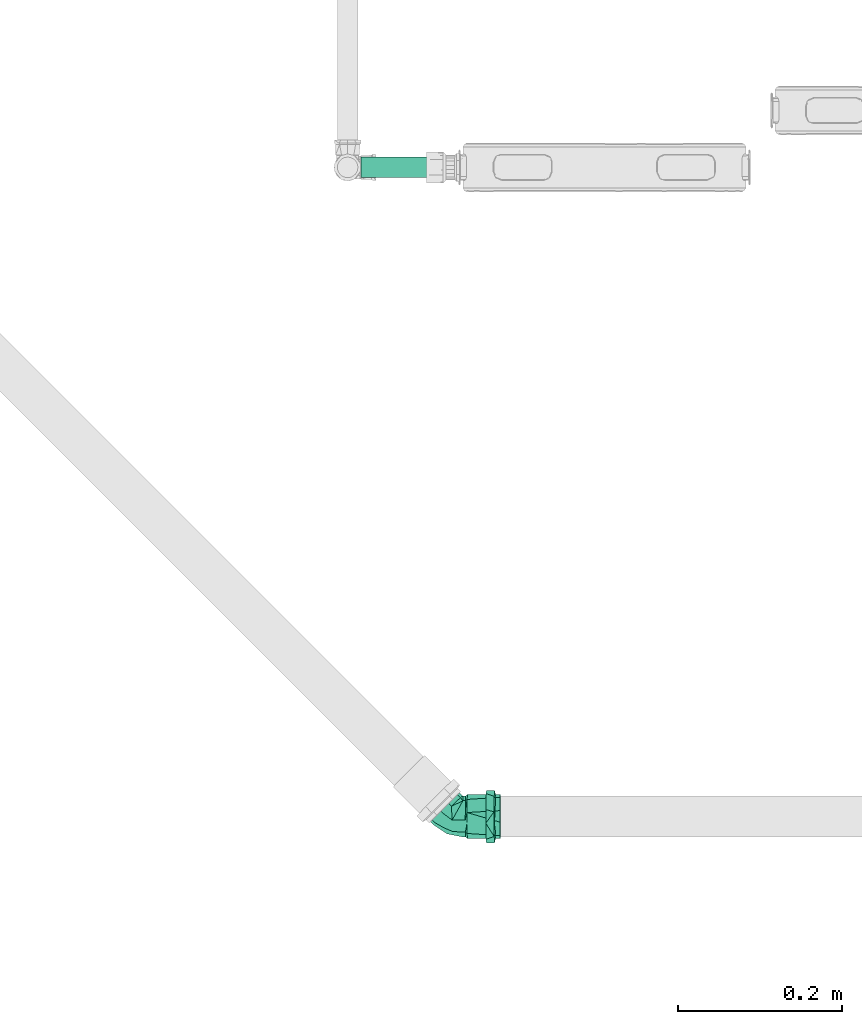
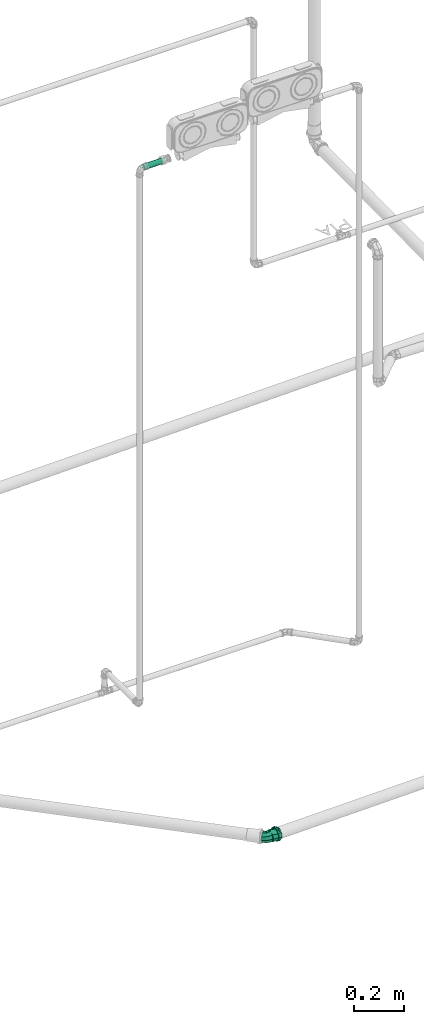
# One storey, part 109 of 589: 1 flow fitting, 1 flow segment.
"""IFC2X3 building model written with IfcOpenShell, lengths in millimetres."""

from ifc_helpers import new_model, entity, si_unit, converted_unit, derived_unit, direction, frame, frame_2d, origin, place, context, subcontext, project, spatial, circle, extrude, faceted_brep, source, transform, mapped, material, type_object, type_shapes, element, save


model = new_model("IFC2X3")

# Units and contexts
model_context = context("Model", 3, precision=0.01, world=origin(), true_north=direction((6.123031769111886e-17, 1.0)))
body_context = subcontext(model_context, "Body", "Model", "MODEL_VIEW")
ifc_project = project(units=[si_unit("LENGTHUNIT", "METRE", prefix="MILLI"), si_unit("AREAUNIT", "SQUARE_METRE"), si_unit("VOLUMEUNIT", "CUBIC_METRE"), converted_unit("PLANEANGLEUNIT", "DEGREE", entity("IfcRatioMeasure", 0.017453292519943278), si_unit("PLANEANGLEUNIT", "RADIAN"), dimensions=[0, 0, 0, 0, 0, 0, 0]), si_unit("MASSUNIT", "GRAM", prefix="KILO"), derived_unit("MASSDENSITYUNIT", [(si_unit("MASSUNIT", "GRAM", prefix="KILO"), 1), (si_unit("LENGTHUNIT", "METRE"), -3)]), derived_unit("IONCONCENTRATIONUNIT", [(si_unit("MASSUNIT", "GRAM", prefix="KILO"), 1), (si_unit("LENGTHUNIT", "METRE"), -3)]), derived_unit("MOMENTOFINERTIAUNIT", [(si_unit("LENGTHUNIT", "METRE"), 4)]), si_unit("TIMEUNIT", "SECOND"), si_unit("FREQUENCYUNIT", "HERTZ"), si_unit("THERMODYNAMICTEMPERATUREUNIT", "DEGREE_CELSIUS"), derived_unit("THERMALTRANSMITTANCEUNIT", [(si_unit("MASSUNIT", "GRAM", prefix="KILO"), 1), (si_unit("THERMODYNAMICTEMPERATUREUNIT", "KELVIN"), -1), (si_unit("TIMEUNIT", "SECOND"), -3)]), derived_unit("THERMALCONDUCTANCEUNIT", [(si_unit("MASSUNIT", "GRAM", prefix="KILO"), 1), (si_unit("THERMODYNAMICTEMPERATUREUNIT", "KELVIN"), -1), (si_unit("TIMEUNIT", "SECOND"), -3), (si_unit("LENGTHUNIT", "METRE"), 1)]), derived_unit("VOLUMETRICFLOWRATEUNIT", [(si_unit("LENGTHUNIT", "METRE"), 3), (si_unit("TIMEUNIT", "SECOND"), -1)]), derived_unit("MASSFLOWRATEUNIT", [(si_unit("MASSUNIT", "GRAM", prefix="KILO"), 1), (si_unit("TIMEUNIT", "SECOND"), -1)]), derived_unit("ROTATIONALFREQUENCYUNIT", [(si_unit("TIMEUNIT", "SECOND"), -1)]), si_unit("ELECTRICCURRENTUNIT", "AMPERE"), si_unit("ELECTRICVOLTAGEUNIT", "VOLT"), si_unit("POWERUNIT", "WATT"), si_unit("FORCEUNIT", "NEWTON", prefix="KILO"), si_unit("ILLUMINANCEUNIT", "LUX"), si_unit("LUMINOUSFLUXUNIT", "LUMEN"), si_unit("LUMINOUSINTENSITYUNIT", "CANDELA"), derived_unit("USERDEFINED", [(si_unit("MASSUNIT", "GRAM", prefix="KILO"), -1), (si_unit("LENGTHUNIT", "METRE"), -2), (si_unit("TIMEUNIT", "SECOND"), 3), (si_unit("LUMINOUSFLUXUNIT", "LUMEN"), 1)]), derived_unit("USERDEFINED", [(si_unit("MASSUNIT", "GRAM", prefix="KILO"), 1), (si_unit("TIMEUNIT", "SECOND"), -3), (si_unit("LENGTHUNIT", "METRE"), 3), (si_unit("ELECTRICCURRENTUNIT", "AMPERE"), -2)]), derived_unit("SOUNDPOWERUNIT", [(si_unit("MASSUNIT", "GRAM", prefix="KILO"), 1), (si_unit("TIMEUNIT", "SECOND"), -3), (si_unit("LENGTHUNIT", "METRE"), 2)]), derived_unit("SOUNDPRESSUREUNIT", [(si_unit("MASSUNIT", "GRAM", prefix="KILO"), 1), (si_unit("LENGTHUNIT", "METRE"), -1), (si_unit("TIMEUNIT", "SECOND"), -2)]), derived_unit("LINEARVELOCITYUNIT", [(si_unit("LENGTHUNIT", "METRE"), 1), (si_unit("TIMEUNIT", "SECOND"), -1)]), si_unit("PRESSUREUNIT", "PASCAL"), derived_unit("USERDEFINED", [(si_unit("MASSUNIT", "GRAM", prefix="KILO"), 1), (si_unit("LENGTHUNIT", "METRE"), -2), (si_unit("TIMEUNIT", "SECOND"), -2)]), derived_unit("LINEARFORCEUNIT", [(si_unit("MASSUNIT", "GRAM", prefix="KILO"), 1), (si_unit("TIMEUNIT", "SECOND"), -2)]), derived_unit("PLANARFORCEUNIT", [(si_unit("MASSUNIT", "GRAM", prefix="KILO"), 1), (si_unit("LENGTHUNIT", "METRE"), -1), (si_unit("TIMEUNIT", "SECOND"), -2)]), derived_unit("SPECIFICHEATCAPACITYUNIT", [(si_unit("THERMODYNAMICTEMPERATUREUNIT", "KELVIN"), -1), (si_unit("LENGTHUNIT", "METRE"), 2), (si_unit("TIMEUNIT", "SECOND"), -2)]), derived_unit("HEATINGVALUEUNIT", [(si_unit("LENGTHUNIT", "METRE"), 2), (si_unit("TIMEUNIT", "SECOND"), -2)]), derived_unit("VAPORPERMEABILITYUNIT", [(si_unit("LENGTHUNIT", "METRE"), -1), (si_unit("TIMEUNIT", "SECOND"), 1)]), derived_unit("DYNAMICVISCOSITYUNIT", [(si_unit("MASSUNIT", "GRAM", prefix="KILO"), 1), (si_unit("TIMEUNIT", "SECOND"), -1), (si_unit("LENGTHUNIT", "METRE"), -1)]), derived_unit("THERMALEXPANSIONCOEFFICIENTUNIT", [(si_unit("THERMODYNAMICTEMPERATUREUNIT", "KELVIN"), -1)]), derived_unit("MODULUSOFELASTICITYUNIT", [(si_unit("MASSUNIT", "GRAM", prefix="KILO"), 1), (si_unit("LENGTHUNIT", "METRE"), -1), (si_unit("TIMEUNIT", "SECOND"), -2)]), derived_unit("ISOTHERMALMOISTURECAPACITYUNIT", [(si_unit("LENGTHUNIT", "METRE"), 3), (si_unit("MASSUNIT", "GRAM", prefix="KILO"), -1)]), derived_unit("MOISTUREDIFFUSIVITYUNIT", [(si_unit("TIMEUNIT", "SECOND"), -1), (si_unit("LENGTHUNIT", "METRE"), 2)])], contexts=[model_context])

# Site, building, storey
site_placement = place(None, origin())
site = spatial("IfcSite", under=ifc_project, at=site_placement, Name="Default", CompositionType="ELEMENT")
building_placement = place(site_placement, origin())
building = spatial("IfcBuilding", under=site, at=building_placement, CompositionType="ELEMENT")
storey_placement = place(building_placement, frame((0.0, 0.0, 100.0)))
storey = spatial("IfcBuildingStorey", under=building, at=storey_placement, Name="TÉRREO", CompositionType="ELEMENT", Elevation=100.0)

# Flow segment
pipe_segment_type = type_object("IfcPipeSegmentType", Name="Tipos de tubos:PVC Marrom Soldável", PredefinedType="NOTDEFINED")
flow_segment_placement = place(storey_placement, origin())
element("IfcFlowSegment", 1, at=flow_segment_placement, inside=storey, type_object=pipe_segment_type, Name="Tipos de tubos:PVC Marrom Soldável", ObjectType="Tipos de tubos:PVC Marrom Soldável", context=body_context, shape_type="SweptSolid", body=[
    extrude(circle(Radius=12.5, at=frame_2d((0.0, -5.414064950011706e-13), x_axis=(1.0, 0.0))), frame((-271.8779033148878, 1487.6480909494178, 2576.4399682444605), z_axis=(0.9999500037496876, 0.0, 0.009999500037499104), x_axis=(0.0, 1.0, 0.0)), (0.0, 0.0, 1.0), 95.98397679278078),
])

# Flow fitting
ifc_material = material(Name="PVC Série Normal")
pipe_fitting_type = type_object("IfcPipeFittingType", Name="PVC Esgoto_Joelho 45_90_Rodrigo MEP:a. Série Normal", PredefinedType="NOTDEFINED", material=ifc_material)
shared_shape = source(origin(), body_context, "Body", "Brep", [
    faceted_brep([(-15.967030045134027, -21.650635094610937, -12.500000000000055), (-15.967030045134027, -25.0, 0.0), (-15.967030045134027, -21.650635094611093, 12.499999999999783), (-15.967030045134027, -6.470476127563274, 24.148145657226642), (-15.967030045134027, 6.470476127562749, 24.14814565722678), (-15.967030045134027, 21.650635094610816, 12.500000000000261), (-15.967030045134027, 25.0, 0.0), (-15.967030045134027, 21.650635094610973, -12.499999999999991), (-15.967030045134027, 6.4704761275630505, -24.1481456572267), (-15.967030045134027, -6.4704761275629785, -24.14814565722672), (-10.767030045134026, 6.4704761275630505, -24.1481456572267), (-10.767030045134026, 21.650635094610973, -12.499999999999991), (-10.767030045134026, 25.0, 0.0), (-10.767030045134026, 21.650635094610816, 12.500000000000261), (-10.767030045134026, 6.470476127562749, 24.14814565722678), (-10.767030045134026, -6.470476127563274, 24.148145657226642), (-10.767030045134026, -21.650635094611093, 12.499999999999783), (-10.767030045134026, -25.0, 0.0), (-10.767030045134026, -21.650635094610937, -12.500000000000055), (-10.767030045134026, -6.4704761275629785, -24.14814565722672)], [[[0, 1, 2, 3, 4, 5, 6, 7, 8, 9]], [[10, 11, 12, 13, 14, 15, 16, 17, 18, 19]], [[1, 17, 16, 2]], [[2, 16, 15, 3]], [[15, 14, 4, 3]], [[4, 14, 13, 5]], [[5, 13, 12, 6]], [[6, 12, 11, 7]], [[7, 11, 10, 8]], [[10, 19, 9, 8]], [[9, 19, 18, 0]], [[0, 18, 17, 1]]]),
    faceted_brep([(32.49893906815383, 22.607125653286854, -26.079997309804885), (22.61789019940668, 32.49144831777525, -26.079997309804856), (21.702978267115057, 33.406663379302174, -30.90962644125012), (33.41385100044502, 21.691910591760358, -30.90962644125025), (44.08973158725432, 11.012492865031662, -13.500000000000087), (7.965742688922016, 47.14845038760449, -16.0), (11.027097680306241, 44.08608110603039, -13.499999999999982), (8.46969404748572, 46.64433205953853, 0.0), (4.934745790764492, 50.18045151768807, 0.0), (11.027097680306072, 44.08608110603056, 13.499999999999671), (7.965742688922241, 47.14845038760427, 16.0), (22.617890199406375, 32.49144831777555, 26.079997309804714), (21.702978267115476, 33.406663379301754, 30.909626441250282), (32.49893906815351, 22.607125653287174, 26.07999730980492), (33.41385100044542, 21.69191059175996, 30.909626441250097), (44.08973158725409, 11.01249286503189, 13.500000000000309), (47.15108657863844, 7.950123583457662, 16.0), (50.18208347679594, 4.9181224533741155, 0.0), (46.64713522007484, 8.454241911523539, 0.0), (47.15108657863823, 7.950123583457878, -16.0), (57.254322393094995, 11.988018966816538, 0.0), (51.96057869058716, 17.283516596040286, 20.570569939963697), (30.698989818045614, 38.55214987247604, 31.51307341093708), (17.297080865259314, 51.95849915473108, 20.56442050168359), (12.006984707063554, 57.25034803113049, 0.0), (17.297080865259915, 51.95849915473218, -20.564420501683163), (38.55672846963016, 30.691807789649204, -31.51446740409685), (51.96057869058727, 17.28351659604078, -20.57056993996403), (15.541932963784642, 53.714228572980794, 0.0), (16.461324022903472, 54.633315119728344, 0.0), (16.820634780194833, 52.43510309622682, 6.749999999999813), (18.099336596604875, 51.15597761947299, 13.49999999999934), (20.99703472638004, 48.257319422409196, 16.64499932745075), (23.894732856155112, 45.35866122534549, 19.789998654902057), (26.792430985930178, 42.4600030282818, 22.93499798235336), (29.690129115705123, 39.561344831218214, 26.07999730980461), (34.630653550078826, 34.619183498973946, 26.079997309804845), (39.571177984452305, 29.677022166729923, 26.079997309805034), (42.46887611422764, 26.778363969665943, 22.93499798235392), (45.36657424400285, 23.87970577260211, 19.789998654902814), (48.264272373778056, 20.981047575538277, 16.644999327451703), (51.16197050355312, 18.082389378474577, 13.500000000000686), (52.440672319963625, 16.80326390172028, 6.7500000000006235), (54.6387651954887, 16.44322497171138, 0.0), (53.719374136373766, 15.524138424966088, 0.0), (52.44067231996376, 16.80326390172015, -6.750000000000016), (51.161970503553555, 18.082389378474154, -13.499999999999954), (48.26427237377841, 20.98104757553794, -16.644999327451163), (45.36657424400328, 23.879705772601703, -19.78999865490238), (42.468876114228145, 26.778363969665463, -22.9349979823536), (39.571177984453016, 29.677022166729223, -26.079997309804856), (34.6306535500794, 34.6191834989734, -26.079997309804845), (29.690129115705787, 39.56134483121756, -26.079997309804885), (26.792430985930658, 42.46000302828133, -22.93499798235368), (23.894732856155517, 45.358661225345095, -19.78999865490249), (20.99703472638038, 48.25731942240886, -16.64499932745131), (18.09933659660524, 51.15597761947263, -13.50000000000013), (16.82063478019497, 52.43510309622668, -6.75000000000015), (52.40700587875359, 18.675723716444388, 8.67561489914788), (50.175246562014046, 20.908222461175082, 17.351229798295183), (45.690789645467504, 25.394165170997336, 19.661005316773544), (41.20633272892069, 29.88010788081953, 21.97078083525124), (36.721875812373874, 34.36605059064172, 24.280556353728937), (32.23741889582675, 38.851993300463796, 26.590331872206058), (20.927920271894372, 50.16523899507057, 17.356418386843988), (18.694622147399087, 52.39927705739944, 8.678209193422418), (26.582669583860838, 44.50861614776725, 21.973375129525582), (18.694622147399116, 52.39927705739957, -8.678209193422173), (20.9279202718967, 50.165238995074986, -17.35641838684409), (25.412786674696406, 45.67888666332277, -19.664602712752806), (29.897653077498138, 41.19253433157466, -21.97278703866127), (34.38251948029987, 36.70618199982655, -24.28097136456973), (38.86738588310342, 32.21982966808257, -26.58915569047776), (50.1752465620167, 20.908222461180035, -17.351229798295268), (52.40700587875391, 18.67572371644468, -8.675614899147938), (44.521316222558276, 26.564026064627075, -21.970192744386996)], [[[0, 1, 2]], [[2, 3, 0]], [[4, 0, 3]], [[5, 2, 1]], [[1, 6, 5]], [[6, 7, 5]], [[8, 5, 7]], [[8, 7, 9]], [[10, 8, 9]], [[9, 11, 10]], [[11, 12, 10]], [[13, 12, 11]], [[12, 13, 14]], [[13, 15, 14]], [[16, 14, 15]], [[16, 15, 17]], [[17, 15, 18]], [[18, 4, 19]], [[17, 18, 19]], [[3, 19, 4]], [[20, 21, 16]], [[20, 16, 17]], [[16, 21, 14]], [[21, 22, 14]], [[12, 22, 23]], [[10, 23, 24]], [[23, 10, 12]], [[10, 24, 8]], [[22, 12, 14]], [[24, 25, 5]], [[24, 5, 8]], [[5, 25, 2]], [[25, 26, 2]], [[3, 26, 27]], [[19, 27, 20]], [[27, 19, 3]], [[19, 20, 17]], [[26, 3, 2]], [[9, 7, 28, 29, 30, 31]], [[11, 9, 31, 32, 33, 34, 35]], [[11, 35, 36, 37, 13]], [[15, 13, 37, 38, 39, 40, 41]], [[18, 15, 41, 42, 43, 44]], [[4, 18, 44, 43, 45, 46]], [[0, 4, 46, 47, 48, 49, 50]], [[0, 50, 51, 52, 1]], [[6, 1, 52, 53, 54, 55, 56]], [[7, 6, 56, 57, 29, 28]], [[20, 43, 58, 59]], [[59, 21, 20]], [[21, 59, 60, 61, 62, 63]], [[21, 63, 22]], [[23, 64, 65, 29]], [[23, 22, 64]], [[24, 23, 29]], [[22, 63, 66, 64]], [[25, 29, 67, 68]], [[29, 25, 24]], [[25, 68, 26]], [[26, 68, 69, 70, 71, 72]], [[20, 73, 74, 43]], [[27, 72, 75, 73]], [[27, 73, 20]], [[72, 27, 26]], [[41, 40, 39, 59]], [[31, 65, 64]], [[61, 60, 38]], [[38, 60, 39]], [[63, 62, 36]], [[66, 63, 35]], [[32, 31, 64, 33]], [[36, 62, 37]], [[36, 35, 63]], [[38, 37, 61]], [[34, 33, 66, 35]], [[65, 30, 29]], [[42, 58, 43]], [[60, 59, 39]], [[37, 62, 61]], [[58, 41, 59]], [[66, 33, 64]], [[42, 41, 58]], [[65, 31, 30]], [[56, 55, 54, 68]], [[46, 74, 73]], [[70, 69, 53]], [[53, 69, 54]], [[72, 71, 51]], [[75, 72, 50]], [[47, 46, 73, 48]], [[51, 71, 52]], [[51, 50, 72]], [[53, 52, 70]], [[49, 48, 75, 50]], [[74, 45, 43]], [[57, 67, 29]], [[69, 68, 54]], [[52, 71, 70]], [[67, 56, 68]], [[75, 48, 73]], [[57, 56, 67]], [[74, 46, 45]]]),
    faceted_brep([(15.866824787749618, 6.71244969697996, 24.148145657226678), (26.599040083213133, -4.023321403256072, 12.49999999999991), (28.96700640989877, -6.392072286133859, 0.0), (26.59904008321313, -4.023321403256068, -12.499999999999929), (15.866824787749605, 6.7124496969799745, -24.148145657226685), (6.71770546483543, 15.864600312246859, -24.148145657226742), (-4.014509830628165, 26.60037141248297, -12.50000000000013), (-6.3824761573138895, 28.969122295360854, 0.0), (-4.014509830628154, 26.60037141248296, 12.500000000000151), (6.71770546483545, 15.86460031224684, 24.148145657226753), (27.4111138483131, -7.94744951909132, 0.0), (23.27822622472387, -3.813192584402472, -16.06595351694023), (30.380985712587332, -7.806520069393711, 0.0), (5.635977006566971, 16.94668716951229, -21.97078083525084), (14.604890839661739, 7.9748017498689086, -26.590331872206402), (6.669126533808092, 12.801410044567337, -24.620677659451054), (25.914389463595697, -3.3384439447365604, -17.35641838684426), (-3.8026314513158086, 23.276637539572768, -16.070757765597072), (-3.332936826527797, 25.918572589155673, -17.35122979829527), (14.973676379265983, 4.494108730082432, -20.34331558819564), (-7.9383687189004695, 27.413745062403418, 0.0), (-7.796455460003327, 30.38357007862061, 0.0), (-3.8026314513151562, 23.27663753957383, 16.07075776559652), (-3.332936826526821, 25.91857258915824, 17.35122979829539), (16.944656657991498, 5.634260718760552, 21.972787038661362), (7.974923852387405, 14.606965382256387, 26.58915569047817), (12.807984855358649, 6.66051779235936, 24.619588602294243), (23.27822622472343, -3.8131925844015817, 16.065953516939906), (25.914389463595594, -3.3384439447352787, 17.356418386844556), (4.502676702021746, 14.968577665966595, 20.345173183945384), (34.640696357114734, 44.51027239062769, -26.07999730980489), (35.006661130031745, 44.14418636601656, -24.14814565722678), (44.15578045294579, 34.99203575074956, -24.148145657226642), (23.049903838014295, 56.10490517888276, -13.499999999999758), (44.52174522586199, 34.62594972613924, -26.07999730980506), (24.274445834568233, 54.879957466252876, -12.500000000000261), (21.906479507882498, 57.24870834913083, 0.0), (20.49250020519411, 58.66315613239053, 0.0), (24.27444583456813, 54.87995746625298, 12.499999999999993), (23.0499038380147, 56.104905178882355, 13.50000000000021), (35.00666113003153, 44.144186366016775, 24.148145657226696), (34.640696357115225, 44.5102723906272, 26.07999730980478), (44.15578045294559, 34.992035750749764, 24.14814565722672), (44.52174522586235, 34.625949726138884, 26.079997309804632), (54.88799574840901, 24.25626465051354, 12.500000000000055), (56.11253774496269, 23.031316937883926, 13.499999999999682), (58.66994137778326, 20.473065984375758, 0.0), (57.25596207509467, 21.88751376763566, 0.0), (56.11253774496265, 23.03131693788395, -13.500000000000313), (54.88799574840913, 24.256264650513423, -12.499999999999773), (25.289442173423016, -10.068418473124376, 0.0), (21.154302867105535, -5.931909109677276, 16.069749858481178), (10.68377913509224, 4.542083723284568, 24.62022085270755), (2.3793594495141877, 12.849254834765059, 20.344851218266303), (-5.925060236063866, 21.156425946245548, 16.069481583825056), (-10.060040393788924, 25.292776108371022, 0.0), (-5.925060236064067, 21.156425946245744, -16.06948158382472), (4.5453788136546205, 10.68251782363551, -24.620160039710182), (21.154302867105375, -5.931909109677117, -16.069749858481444), (12.849840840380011, 2.375304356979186, -20.344954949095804), (-10.767030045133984, -21.65063509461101, 12.499999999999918), (-10.767030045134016, -6.470476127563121, 24.148145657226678), (-10.767030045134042, 6.470476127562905, 24.14814565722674), (-10.767030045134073, 21.650635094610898, 12.500000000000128), (-10.76703004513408, 25.0, 0.0), (-10.767030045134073, 21.65063509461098, -12.499999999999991), (-10.767030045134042, 6.470476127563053, -24.1481456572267), (-10.767030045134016, -6.470476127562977, -24.14814565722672), (-10.767030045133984, -21.650635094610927, -12.500000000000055), (-10.767030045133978, -25.0, 0.0), (11.656201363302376, -14.144371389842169, 15.023571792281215), (1.6913455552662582, -4.6924143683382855, 23.963323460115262), (0.6213662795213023, -18.676600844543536, 14.858628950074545), (-3.6046282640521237, -23.575618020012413, 0.0), (8.745922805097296, -21.11947231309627, 0.0), (-10.384423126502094, 25.07608877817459, 0.0), (19.21699707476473, -14.124805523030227, 0.0), (1.6262309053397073, -4.6803495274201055, -23.97388545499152), (0.6210080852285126, -18.681175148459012, -14.852749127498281), (11.682599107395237, -14.100315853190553, -15.057518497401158)], [[[0, 1, 2, 3, 4, 5, 6, 7, 8, 9]], [[10, 11, 12]], [[13, 14, 15]], [[16, 12, 11]], [[13, 17, 18]], [[17, 13, 15]], [[16, 19, 14]], [[17, 20, 18]], [[18, 20, 21]], [[19, 16, 11]], [[14, 19, 15]], [[20, 22, 23]], [[24, 25, 26]], [[23, 21, 20]], [[24, 27, 28]], [[27, 24, 26]], [[23, 29, 25]], [[27, 10, 12]], [[28, 27, 12]], [[29, 23, 22]], [[25, 29, 26]], [[30, 31, 32]], [[31, 30, 33]], [[32, 34, 30]], [[33, 35, 31]], [[33, 36, 35]], [[36, 33, 37]], [[38, 36, 37]], [[38, 37, 39]], [[39, 40, 38]], [[39, 41, 40]], [[40, 41, 42]], [[43, 42, 41]], [[43, 44, 42]], [[44, 43, 45]], [[46, 44, 45]], [[47, 44, 46]], [[48, 47, 46]], [[48, 49, 47]], [[49, 48, 34]], [[34, 32, 49]], [[46, 45, 12]], [[45, 28, 12]], [[28, 45, 43]], [[43, 25, 24, 28]], [[23, 41, 39]], [[21, 39, 37]], [[41, 23, 25]], [[23, 39, 21]], [[41, 25, 43]], [[37, 33, 21]], [[33, 18, 21]], [[18, 33, 30]], [[30, 14, 13, 18]], [[16, 34, 48]], [[12, 48, 46]], [[34, 16, 14]], [[16, 48, 12]], [[34, 14, 30]], [[3, 2, 47, 49]], [[4, 3, 49, 32]], [[32, 31, 5, 4]], [[6, 5, 31, 35]], [[7, 6, 35, 36]], [[8, 7, 36, 38]], [[9, 8, 38, 40]], [[40, 42, 0, 9]], [[1, 0, 42, 44]], [[2, 1, 44, 47]], [[10, 27, 50]], [[27, 51, 50]], [[51, 27, 26]], [[51, 26, 52]], [[52, 29, 53]], [[22, 54, 53]], [[22, 20, 54]], [[26, 29, 52]], [[54, 20, 55]], [[29, 22, 53]], [[20, 17, 56]], [[20, 56, 55]], [[56, 17, 57]], [[58, 59, 19]], [[17, 15, 57]], [[15, 59, 57]], [[58, 19, 11]], [[11, 50, 58]], [[50, 11, 10]], [[59, 15, 19]], [[60, 61, 62, 63, 64, 65, 66, 67, 68, 69]], [[70, 71, 72]], [[61, 71, 62]], [[60, 69, 73]], [[61, 72, 71]], [[70, 72, 74]], [[63, 62, 54]], [[64, 63, 75]], [[61, 60, 72]], [[73, 74, 72]], [[70, 76, 51]], [[52, 70, 51]], [[52, 71, 70]], [[76, 70, 74]], [[75, 63, 55]], [[60, 73, 72]], [[63, 54, 55]], [[54, 62, 71]], [[76, 50, 51]], [[71, 52, 53, 54]], [[67, 77, 78]], [[79, 57, 59, 58]], [[65, 64, 75]], [[66, 65, 56]], [[78, 73, 68]], [[67, 78, 68]], [[74, 73, 78]], [[66, 57, 77]], [[55, 56, 65]], [[76, 79, 58]], [[73, 69, 68]], [[57, 66, 56]], [[74, 78, 79]], [[67, 66, 77]], [[74, 79, 76]], [[57, 79, 77]], [[58, 50, 76]], [[79, 78, 77]], [[65, 75, 55]]]),
])
type_shapes(pipe_fitting_type, [shared_shape])
flow_fitting_placement = place(storey_placement, frame((-158.5436953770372, 697.7290075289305, -248.06328097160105), z_axis=(-0.0199953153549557, 0.00828233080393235, 0.9997657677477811), x_axis=(0.7069654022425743, -0.706965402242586, 0.019996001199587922)))
element("IfcFlowFitting", 2, at=flow_fitting_placement, inside=storey, type_object=pipe_fitting_type, material=ifc_material, Name="PVC Esgoto_Joelho 45_90_Rodrigo MEP:a. Série Normal", ObjectType="PVC Esgoto_Joelho 45_90_Rodrigo MEP:a. Série Normal", context=body_context, shape_type="MappedRepresentation", body=[
    mapped(shared_shape, transform((0.0, 0.0, 0.0), scale=1.0)),
])

save(model, "model.ifc")
